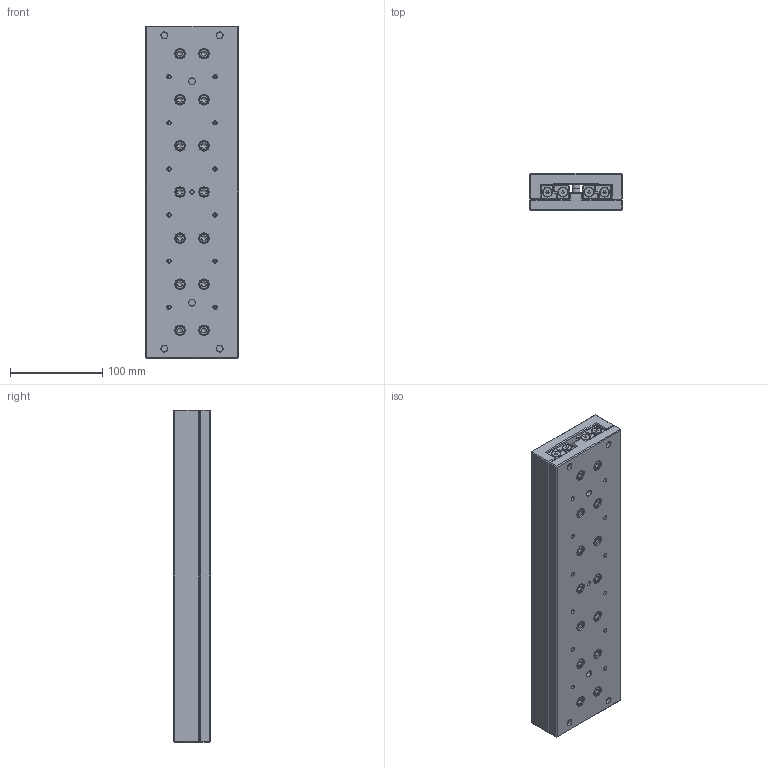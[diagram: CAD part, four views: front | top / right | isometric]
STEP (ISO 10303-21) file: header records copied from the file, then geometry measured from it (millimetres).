
FILE_DESCRIPTION(/* description */ ('Tavola TRL06 L=360 mm'),/* implementation_level */ '2;1');
FILE_NAME(/* name */ 'TRL060360-00.stp',/* time_stamp */ '2024-02-07T09:02:23+01:00',/* author */ ('Rosa sistemi'),/* organization */ (''),/* preprocessor_version */ 'ST-DEVELOPER v20',/* originating_system */ 'Autodesk Inventor 2024',/* authorisation */ '');
FILE_SCHEMA (('AUTOMOTIVE_DESIGN { 1 0 10303 214 3 1 1 }'));
Products named in the file (2): TRL060360-00; TRL060360-00_1
Assembly tree (1 placements, depth 2):
  TRL060360-00
    TRL060360-00_1
Bounding box: 100 x 40 x 360 mm (x, y, z)
Volume: 1294326 mm3; surface area: 265758.7 mm2
Topology: 16 solids, 16 shells, 2133 faces, 5593 edges, 3638 vertices
Faces by surface type: plane 1340, cylinder 297, cone 237, bspline 196, torus 63
Full cylindrical faces by diameter (mm): 1.548 x5, 4.134 x41, 4.256 x5, 6 x34, 7 x6, 8.5 x3, 9.5 x28, 9.64 x8, 10 x28, 11 x34
Entity records: 67484 total; most frequent: CARTESIAN_POINT 14625, ORIENTED_EDGE 11094, DIRECTION 9962, EDGE_CURVE 5547, VERTEX_POINT 3638, LINE 3472, VECTOR 3472, AXIS2_PLACEMENT_3D 3245
